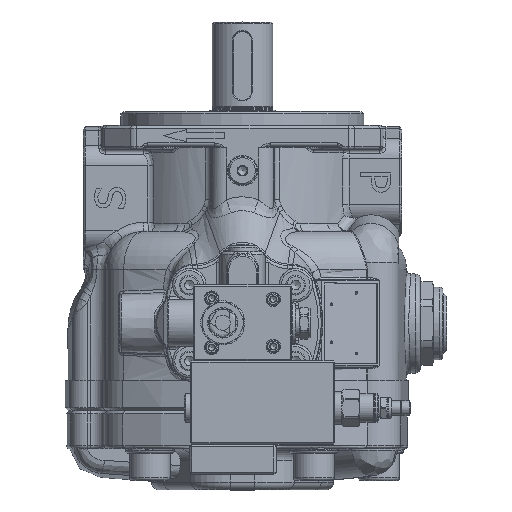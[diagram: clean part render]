
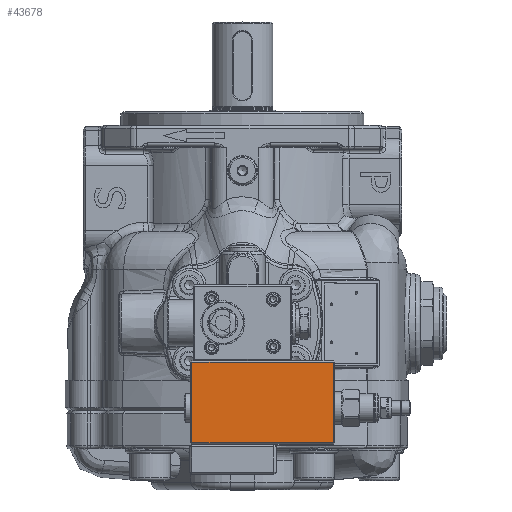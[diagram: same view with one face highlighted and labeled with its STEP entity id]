
A CAD part, top view. The second image highlights one B-rep face of the part: STEP entity #43678.
In plain terms, the highlighted planar face has unit normal (0, 0, 1).
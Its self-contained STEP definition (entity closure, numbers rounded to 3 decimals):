
#3989=LINE('',#89196,#6525);
#3990=LINE('',#89198,#6526);
#3991=LINE('',#89200,#6527);
#3992=LINE('',#89201,#6528);
#6525=VECTOR('',#57590,10.);
#6526=VECTOR('',#57591,10.);
#6527=VECTOR('',#57592,10.);
#6528=VECTOR('',#57593,10.);
#7717=PLANE('',#47669);
#10006=FACE_OUTER_BOUND('',#12601,.T.);
#12601=EDGE_LOOP('',(#36536,#36537,#36538,#36539));
#19507=VERTEX_POINT('',#89194);
#19508=VERTEX_POINT('',#89195);
#19509=VERTEX_POINT('',#89197);
#19510=VERTEX_POINT('',#89199);
#25345=EDGE_CURVE('',#19507,#19508,#3989,.T.);
#25346=EDGE_CURVE('',#19509,#19507,#3990,.T.);
#25347=EDGE_CURVE('',#19510,#19509,#3991,.T.);
#25348=EDGE_CURVE('',#19508,#19510,#3992,.T.);
#36536=ORIENTED_EDGE('',*,*,#25345,.F.);
#36537=ORIENTED_EDGE('',*,*,#25346,.F.);
#36538=ORIENTED_EDGE('',*,*,#25347,.F.);
#36539=ORIENTED_EDGE('',*,*,#25348,.F.);
#43678=ADVANCED_FACE('',(#10006),#7717,.T.);
#47669=AXIS2_PLACEMENT_3D('',#89193,#57588,#57589);
#57588=DIRECTION('center_axis',(0.,0.,
1.));
#57589=DIRECTION('ref_axis',(0.,1.,0.));
#57590=DIRECTION('',(-1.,0.,0.));
#57591=DIRECTION('',(0.,-1.,0.));
#57592=DIRECTION('',(1.,0.,0.));
#57593=DIRECTION('',(0.,1.,0.));
#89193=CARTESIAN_POINT('Origin',(64.311,-119.312,236.499));
#89194=CARTESIAN_POINT('',(63.311,-118.312,236.499));
#89195=CARTESIAN_POINT('',(-29.689,-118.312,236.499));
#89196=CARTESIAN_POINT('',(40.561,-118.312,236.499));
#89197=CARTESIAN_POINT('',(63.311,-65.312,236.499));
#89198=CARTESIAN_POINT('',(63.311,-119.312,236.499));
#89199=CARTESIAN_POINT('',(-29.689,-65.312,236.499));
#89200=CARTESIAN_POINT('',(40.561,-65.312,236.499));
#89201=CARTESIAN_POINT('',(-29.689,-119.312,236.499));
